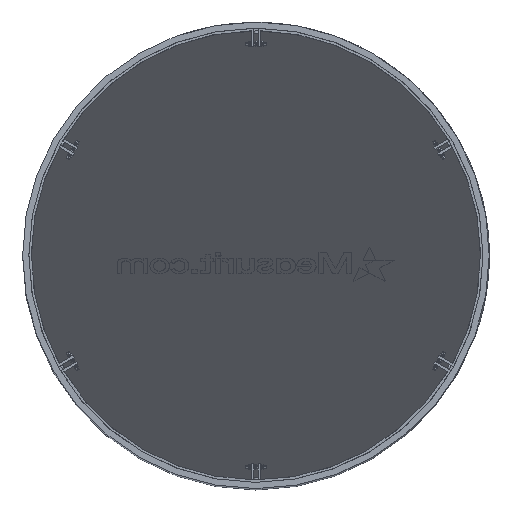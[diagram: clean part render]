
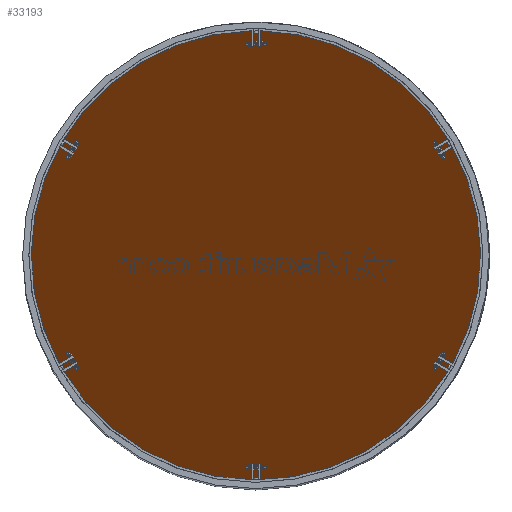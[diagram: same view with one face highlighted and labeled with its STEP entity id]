
A CAD part, top view. The second image highlights one B-rep face of the part: STEP entity #33193.
In plain terms, the highlighted planar face has unit normal (0, -0.707, 0.707).
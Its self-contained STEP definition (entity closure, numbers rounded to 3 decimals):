
#7909 = CARTESIAN_POINT ( 'NONE',  ( 727., 0., 1297.828 ) ) ;
#13991 = CARTESIAN_POINT ( 'NONE',  ( 727., 0., 1297.828 ) ) ;
#14515 = CARTESIAN_POINT ( 'NONE',  ( -727., 1454., 2751.828 ) ) ;
#15299 = CARTESIAN_POINT ( 'NONE',  ( -727., 0., 1297.828 ) ) ;
#19843 = ORIENTED_EDGE ( 'NONE', *, *, #100461, .T. ) ;
#28688 = CARTESIAN_POINT ( 'NONE',  ( 727., 0., 1297.828 ) ) ;
#30350 = VERTEX_POINT ( 'NONE', #91992 ) ;
#33193 = ADVANCED_FACE ( 'NONE', ( #85232 ), #76777, .F. ) ;
#33235 = CARTESIAN_POINT ( 'NONE',  ( -727., -1454., -156.172 ) ) ;
#35297 = CARTESIAN_POINT ( 'NONE',  ( 2181.823, -648.914, 648.914 ) ) ;
#36856 = DIRECTION ( 'NONE',  ( 0., 0.707, -0.707 ) ) ;
#38767 = CARTESIAN_POINT ( 'NONE',  ( 727., 1454., 2751.828 ) ) ;
#39330 = VERTEX_POINT ( 'NONE', #28688 ) ;
#45808 = AXIS2_PLACEMENT_3D ( 'NONE', #35297, #36856, #66854 ) ;
#47293 = EDGE_CURVE ( 'NONE', #39330, #30350, #87618, .T. ) ;
#47507 = EDGE_LOOP ( 'NONE', ( #19843, #75072 ) ) ;
#61385 = CARTESIAN_POINT ( 'NONE',  ( -727., 0., 1297.828 ) ) ;
#62086 =( BOUNDED_CURVE ( )  B_SPLINE_CURVE ( 3, ( #15299, #33235, #63730, #7909 ),
 .UNSPECIFIED., .F., .T. ) 
 B_SPLINE_CURVE_WITH_KNOTS ( ( 4, 4 ),
 ( 4.712, 7.854 ),
 .UNSPECIFIED. ) 
 CURVE ( )  GEOMETRIC_REPRESENTATION_ITEM ( )  RATIONAL_B_SPLINE_CURVE ( ( 1., 0.333, 0.333, 1. ) ) 
 REPRESENTATION_ITEM ( '' )  );
#63730 = CARTESIAN_POINT ( 'NONE',  ( 727., -1454., -156.172 ) ) ;
#66854 = DIRECTION ( 'NONE',  ( 0., 0.707, 0.707 ) ) ;
#75072 = ORIENTED_EDGE ( 'NONE', *, *, #47293, .T. ) ;
#76777 = PLANE ( 'NONE',  #45808 ) ;
#85232 = FACE_OUTER_BOUND ( 'NONE', #47507, .T. ) ;
#87618 =( BOUNDED_CURVE ( )  B_SPLINE_CURVE ( 3, ( #13991, #38767, #14515, #61385 ),
 .UNSPECIFIED., .F., .F. ) 
 B_SPLINE_CURVE_WITH_KNOTS ( ( 4, 4 ),
 ( 1.571, 4.712 ),
 .UNSPECIFIED. ) 
 CURVE ( )  GEOMETRIC_REPRESENTATION_ITEM ( )  RATIONAL_B_SPLINE_CURVE ( ( 1., 0.333, 0.333, 1. ) ) 
 REPRESENTATION_ITEM ( '' )  );
#91992 = CARTESIAN_POINT ( 'NONE',  ( -727., 0., 1297.828 ) ) ;
#100461 = EDGE_CURVE ( 'NONE', #30350, #39330, #62086, .T. ) ;
